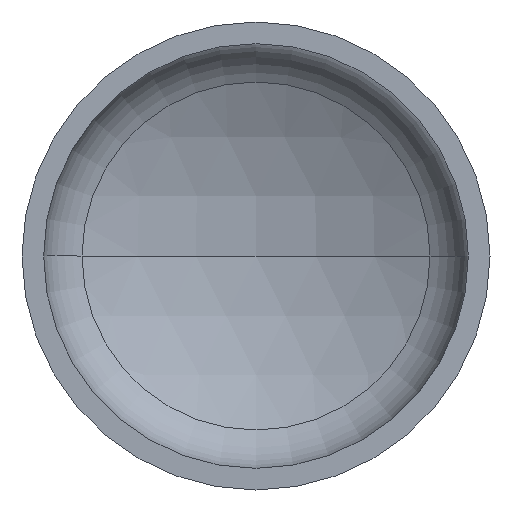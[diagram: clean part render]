
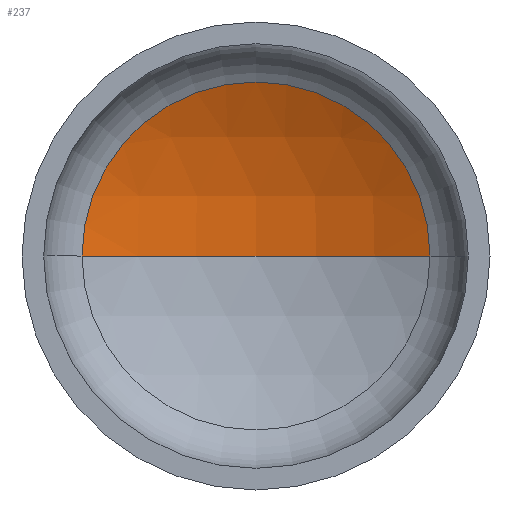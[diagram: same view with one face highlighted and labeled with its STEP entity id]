
A CAD part, front view. The second image highlights one B-rep face of the part: STEP entity #237.
In plain terms, the highlighted spherical face has radius 1280 mm.
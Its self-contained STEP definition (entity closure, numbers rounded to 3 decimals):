
#19 = EDGE_LOOP ( 'NONE', ( #85, #118, #65 ) ) ;
#21 = AXIS2_PLACEMENT_3D ( 'NONE', #153, #271, #171 ) ;
#22 = VERTEX_POINT ( 'NONE', #260 ) ;
#23 = AXIS2_PLACEMENT_3D ( 'NONE', #318, #178, #339 ) ;
#42 = AXIS2_PLACEMENT_3D ( 'NONE', #264, #386, #199 ) ;
#65 = ORIENTED_EDGE ( 'NONE', *, *, #348, .T. ) ;
#84 = CIRCLE ( 'NONE', #21, 1280. ) ;
#85 = ORIENTED_EDGE ( 'NONE', *, *, #396, .F. ) ;
#117 = VERTEX_POINT ( 'NONE', #216 ) ;
#118 = ORIENTED_EDGE ( 'NONE', *, *, #351, .T. ) ;
#120 = VERTEX_POINT ( 'NONE', #205 ) ;
#129 = CARTESIAN_POINT ( 'NONE',  ( 0., -796.441, 0. ) ) ;
#153 = CARTESIAN_POINT ( 'NONE',  ( 0., -796.441, 0. ) ) ;
#171 = DIRECTION ( 'NONE',  ( -1., 0., 0. ) ) ;
#178 = DIRECTION ( 'NONE',  ( 0., -1., 0. ) ) ;
#180 = CIRCLE ( 'NONE', #221, 1280. ) ;
#199 = DIRECTION ( 'NONE',  ( -1., 0., 0. ) ) ;
#204 = CIRCLE ( 'NONE', #23, 594.86 ) ;
#205 = CARTESIAN_POINT ( 'NONE',  ( 0., 483.559, 0. ) ) ;
#207 = DIRECTION ( 'NONE',  ( 1., 0., 0. ) ) ;
#216 = CARTESIAN_POINT ( 'NONE',  ( 594.86, 336.935, 0. ) ) ;
#221 = AXIS2_PLACEMENT_3D ( 'NONE', #129, #341, #207 ) ;
#237 = ADVANCED_FACE ( 'NONE', ( #394 ), #398, .F. ) ;
#260 = CARTESIAN_POINT ( 'NONE',  ( -594.86, 336.935, 0. ) ) ;
#264 = CARTESIAN_POINT ( 'NONE',  ( 0., -796.441, 0. ) ) ;
#271 = DIRECTION ( 'NONE',  ( 0., 0., -1. ) ) ;
#318 = CARTESIAN_POINT ( 'NONE',  ( 0., 336.935, 0. ) ) ;
#339 = DIRECTION ( 'NONE',  ( 1., 0., 0. ) ) ;
#341 = DIRECTION ( 'NONE',  ( 0., 0., 1. ) ) ;
#348 = EDGE_CURVE ( 'NONE', #117, #22, #204, .T. ) ;
#351 = EDGE_CURVE ( 'NONE', #120, #117, #84, .T. ) ;
#386 = DIRECTION ( 'NONE',  ( 0., 0., -1. ) ) ;
#394 = FACE_OUTER_BOUND ( 'NONE', #19, .T. ) ;
#396 = EDGE_CURVE ( 'NONE', #120, #22, #180, .T. ) ;
#398 = SPHERICAL_SURFACE ( 'NONE', #42, 1280. ) ;
